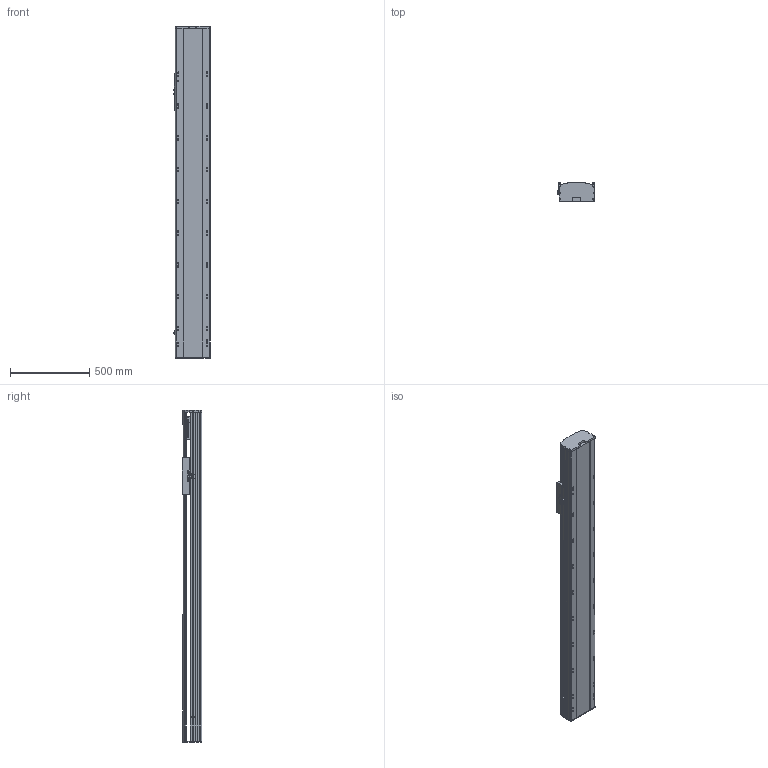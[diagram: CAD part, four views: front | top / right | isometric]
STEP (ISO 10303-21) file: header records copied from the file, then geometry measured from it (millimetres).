
FILE_DESCRIPTION (( 'STEP AP214' ), '1' );
FILE_NAME ('RTH22-XX-1500-B-M75-C4.STEP', '2025-10-24T10:36:26', ( 'Microsoft' ), ( 'Microsoft' ), 'SwSTEP 2.0', 'SolidWorks 2018', '' );
FILE_SCHEMA (( 'AUTOMOTIVE_DESIGN' ));
Length unit declared in the file: millimetre
Products named in the file (9): N_RTH22-B-007奻裔^RTH22-XX-XX-B-M75-C4; N_RTH22-B-008萇儂啣^RTH22-XX-XX-B-M75-C4; N_750W萇儂^RTH22-XX-XX-B-M75-C4; N_RTH22-GY-001耜裔^RTH22-XX-XX-B-M75-C4; N_RTH22-GY-013外置感应片^RTH22-XX-XX-B-M75-C4; RTH22-XX-1500-B-M75-C4; N_OMRON EE-SX672 传感器^RTH22-XX-XX-B-M75-C4; N_RTH22-B-011菁釱^RTH22-XX-XX-B-M75-C4; N_RTH22-E-004-SFS25賑釱^RTH22-XX-XX-B-M75-C4
Assembly tree (10 placements, depth 2):
  RTH22-XX-1500-B-M75-C4
    N_RTH22-B-011菁釱^RTH22-XX-XX-B-M75-C4
    N_RTH22-GY-001耜裔^RTH22-XX-XX-B-M75-C4
    N_750W萇儂^RTH22-XX-XX-B-M75-C4
    N_RTH22-B-008萇儂啣^RTH22-XX-XX-B-M75-C4
    N_RTH22-B-007奻裔^RTH22-XX-XX-B-M75-C4
    N_OMRON EE-SX672 传感器^RTH22-XX-XX-B-M75-C4  x3
    N_RTH22-GY-013外置感应片^RTH22-XX-XX-B-M75-C4
    N_RTH22-E-004-SFS25賑釱^RTH22-XX-XX-B-M75-C4
Bounding box: 238.5 x 122 x 2090 mm (x, y, z)
Volume: 27321150.3 mm3; surface area: 2792486.5 mm2
Topology: 10 solids, 10 shells, 1587 faces, 4350 edges, 2803 vertices
Faces by surface type: plane 760, cylinder 478, bspline 279, cone 70
Entity records: 40065 total; most frequent: CARTESIAN_POINT 12289, ORIENTED_EDGE 5652, DIRECTION 5364, EDGE_CURVE 2826, VERTEX_POINT 1839, AXIS2_PLACEMENT_3D 1830, VECTOR 1704, LINE 1704
